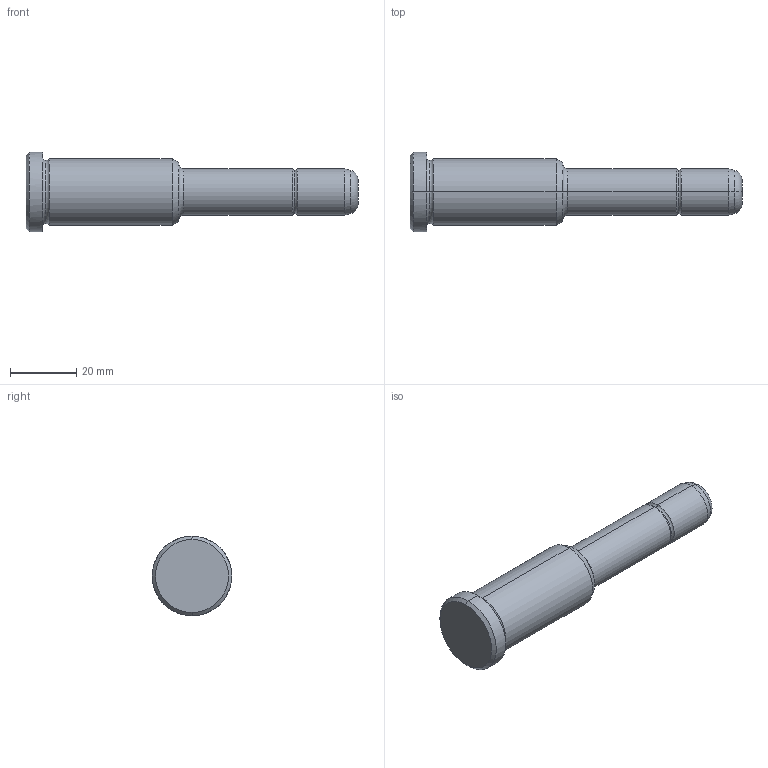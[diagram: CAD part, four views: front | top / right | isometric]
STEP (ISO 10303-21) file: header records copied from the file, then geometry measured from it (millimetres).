
FILE_DESCRIPTION(('CATIA V5 STEP Exchange'),'2;1');
FILE_NAME('C:\Users\Utente\Desktop\IO LAVORO\3D X SITO CF\X SITO\PLASTICA\351\351-14X46X100.stp','2021-08-18T10:40:32+00:00',('none'),('none'),'CATIA Version 5 Release 20 GA (IN-10)','CATIA V5 STEP AP203','none');
FILE_SCHEMA(('CONFIG_CONTROL_DESIGN'));
Length unit declared in the file: millimetre
Products named in the file (1): 351-14X46X100
Bounding box: 100 x 24 x 24 mm (x, y, z)
Volume: 23178.8 mm3; surface area: 6054.4 mm2
Topology: 1 solids, 1 shells, 30 faces, 86 edges, 60 vertices
Faces by surface type: torus 12, cylinder 8, cone 6, plane 4
Entity records: 1112 total; most frequent: CARTESIAN_POINT 289, ORIENTED_EDGE 172, DIRECTION 138, AXIS2_PLACEMENT_3D 95, EDGE_CURVE 86, CIRCLE 64, VERTEX_POINT 60, EDGE_LOOP 32
